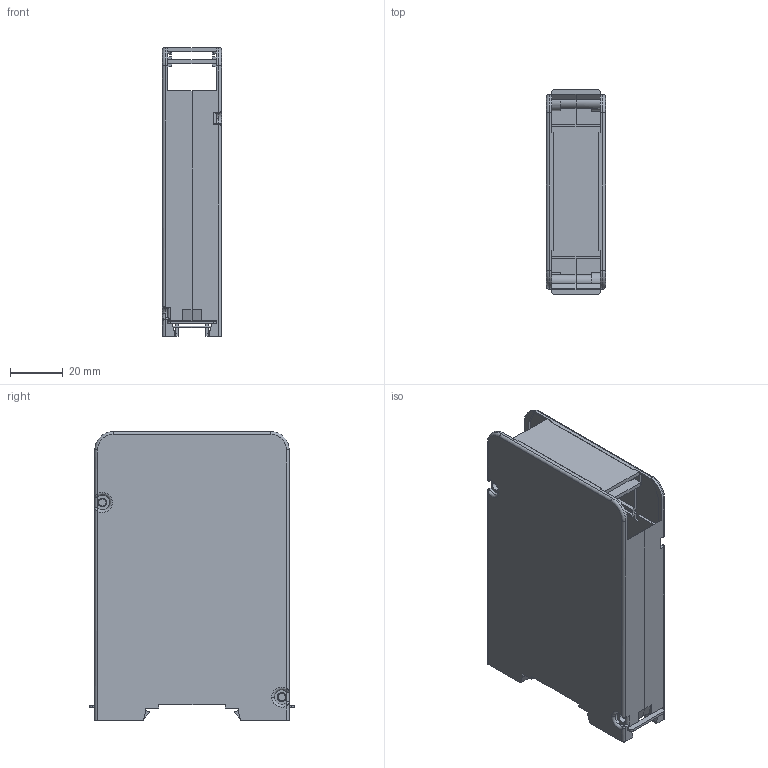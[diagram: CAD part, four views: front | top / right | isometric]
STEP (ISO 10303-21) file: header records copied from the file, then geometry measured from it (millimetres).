
FILE_DESCRIPTION (( 'STEP AP214' ), '1' );
FILE_NAME ('XM22.STEP', '2015-03-11T13:06:46', ( 'User' ), ( 'Bender' ), 'SwSTEP 2.0', 'SolidWorks 2015', '' );
FILE_SCHEMA (( 'AUTOMOTIVE_DESIGN' ));
Length unit declared in the file: millimetre
Products named in the file (14): Frontplatte_XM92; Ha151180.07_gelb R300150; Plombier_XM92; XM22; Schieber_WM01.06; Frontplatte_XM92__22grau_H300310; Ha151180.07; Feder_151199_R309103 gebogen 1,7mm; Feder_151199; Plombier_XM92__22_R300152
Assembly tree (8 placements, depth 2):
  Frontplatte_XM92
  Plombier_XM92
  XM22
    Ha151180.07_gelb R300150  x2
    Frontplatte_XM92__22grau_H300310
    Plombier_XM92__22_R300152
    Schieber_WM01.06  x2
    Feder_151199_R309103 gebogen 1,7mm  x2
  Schieber_WM01.06
  Ha151180.07
Bounding box: 22.5 x 78 x 110 mm (x, y, z)
Volume: 43468.8 mm3; surface area: 52573.9 mm2
Topology: 8 solids, 8 shells, 680 faces, 1842 edges, 1204 vertices
Faces by surface type: plane 516, cylinder 134, torus 14, bspline 12, sphere 4
Entity records: 12432 total; most frequent: CARTESIAN_POINT 2785, ORIENTED_EDGE 1980, DIRECTION 1864, EDGE_CURVE 990, LINE 806, VECTOR 806, VERTEX_POINT 650, AXIS2_PLACEMENT_3D 529
